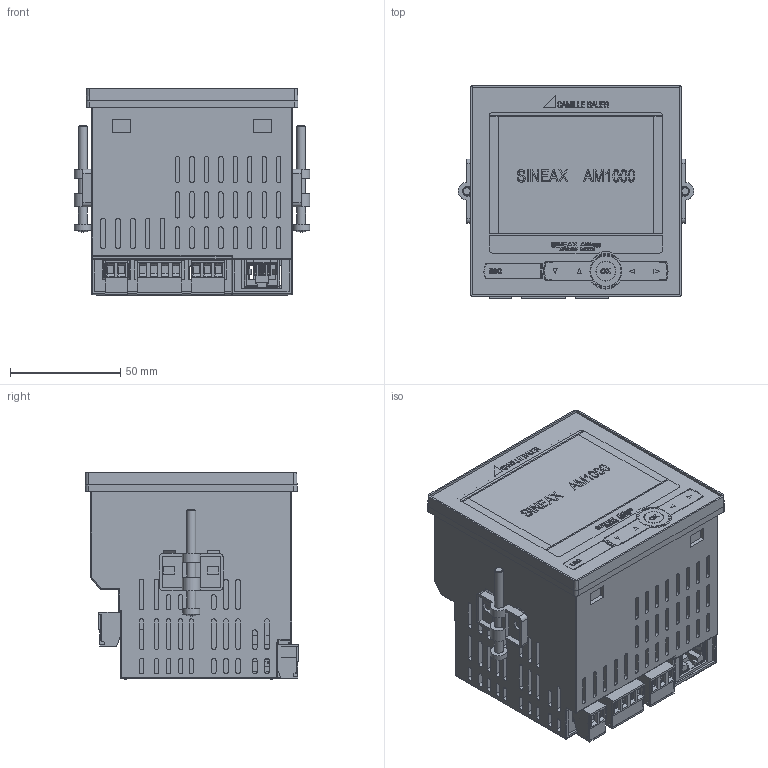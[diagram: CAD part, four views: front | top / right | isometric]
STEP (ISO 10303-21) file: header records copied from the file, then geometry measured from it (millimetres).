
FILE_DESCRIPTION (( 'STEP AP214' ), '1' );
FILE_NAME ('AM1000 f STEP.STEP', '2017-02-14T14:04:54', ( '' ), ( '' ), 'SwSTEP 2.0', 'SolidWorks 2015', '' );
FILE_SCHEMA (( 'AUTOMOTIVE_DESIGN' ));
Length unit declared in the file: millimetre
Products named in the file (1): AM1000 f STEP
Bounding box: 107 x 96.71 x 93.6 mm (x, y, z)
Surface area: 113399 mm2 (no closed solid volume)
Topology: 0 solids, 174 shells, 1476 faces, 7240 edges, 5874 vertices
Faces by surface type: plane 1095, cylinder 355, sphere 17, cone 7, bspline 2
Full cylindrical faces by diameter (mm): 4 x21, 5 x6, 5.2 x10, 7.8 x2, 8.765 x1
Entity records: 93232 total; most frequent: CARTESIAN_POINT 22099, DIRECTION 10061, ORIENTED_EDGE 9876, EDGE_CURVE 7179, VERTEX_POINT 5868, LINE 5503, VECTOR 5503, AXIS2_PLACEMENT_3D 2279
